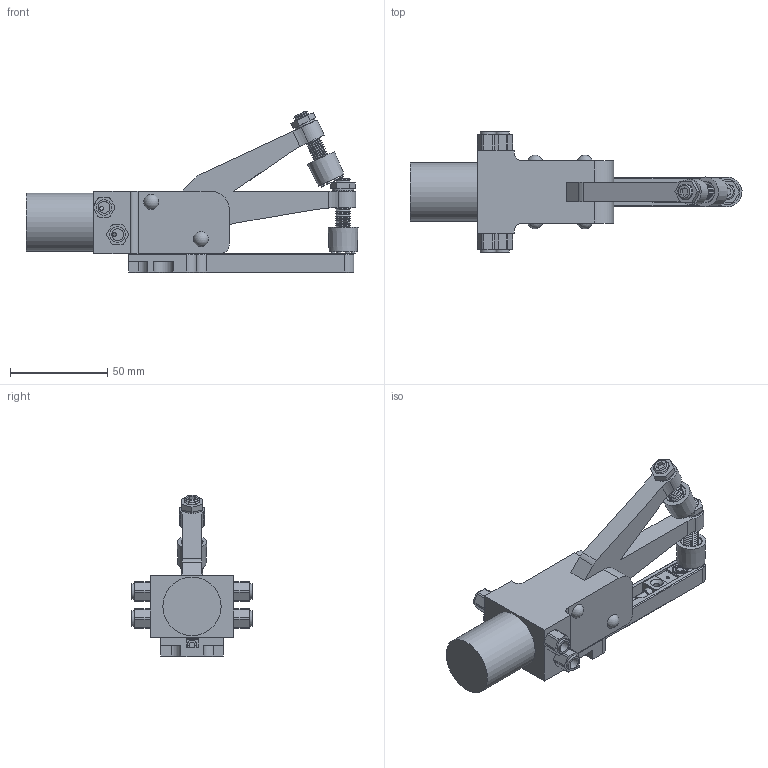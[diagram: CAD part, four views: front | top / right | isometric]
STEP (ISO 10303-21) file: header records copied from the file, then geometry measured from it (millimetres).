
FILE_DESCRIPTION(('STEP AP214'),'1');
FILE_NAME('F-02Y-01-15-UZ-IKIYANDAN HAVA.stp','2024-06-24T12:19:57',(' '),(' '),'Spatial InterOp 3D',' ',' ');
FILE_SCHEMA(('AUTOMOTIVE_DESIGN { 1 0 10303 214 1 1 1 1 }'));
Length unit declared in the file: metre
Products named in the file (1): 1711112909
Bounding box: 170.83 x 62 x 83.34 mm (x, y, z)
Volume: 142961.1 mm3; surface area: 36271.9 mm2
Topology: 1 solids, 15 shells, 524 faces, 1292 edges, 830 vertices
Faces by surface type: plane 237, cylinder 164, cone 107, torus 8, bspline 4, sphere 4
Full cylindrical faces by diameter (mm): 1.5 x1, 2 x4, 2.018 x24, 2.5 x1, 3.1 x1, 3.2 x1, 4.036 x2, 6 x8, 6.8 x14, 8 x8, 8.2 x1, 8.8 x4, 10.595 x2, 11 x2, 13.15 x2, 30 x1
Entity records: 21444 total; most frequent: CARTESIAN_POINT 5430, DIRECTION 2435, ORIENTED_EDGE 2060, EDGE_CURVE 1030, AXIS2_PLACEMENT_3D 950, EDGE_LOOP 789, VERTEX_POINT 741, FACE_OUTER_BOUND 608
